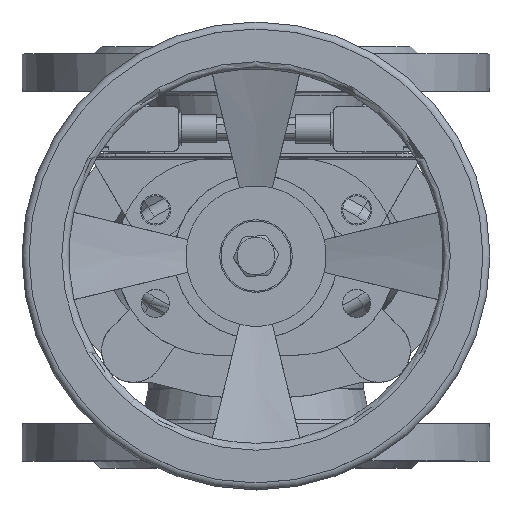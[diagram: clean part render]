
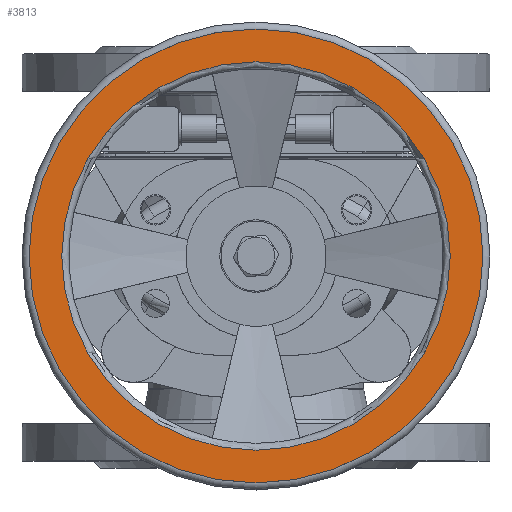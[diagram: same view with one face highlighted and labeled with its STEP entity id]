
A CAD part, top view. The second image highlights one B-rep face of the part: STEP entity #3813.
In plain terms, the highlighted planar face has unit normal (0, 0, 1).
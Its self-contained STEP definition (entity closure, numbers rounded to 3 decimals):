
#3813=ADVANCED_FACE('',(#7376,#7378),#7380,.T.);
#7376=FACE_BOUND('',#7377,.T.);
#7377=EDGE_LOOP('',(#9652));
#7378=FACE_BOUND('',#7379,.T.);
#7379=EDGE_LOOP('',(#9653));
#7380=PLANE('',#7381);
#7381=AXIS2_PLACEMENT_3D('',#7382,#7383,#7384);
#7382=CARTESIAN_POINT('',(0.,0.,401.));
#7383=DIRECTION('',(0.,0.,1.));
#7384=DIRECTION('',(0.,-1.,0.));
#9652=ORIENTED_EDGE('',*,*,#10786,.T.);
#9653=ORIENTED_EDGE('',*,*,#10778,.F.);
#10778=EDGE_CURVE('',#12506,#12506,#12507,.T.);
#10786=EDGE_CURVE('',#12522,#12522,#12523,.T.);
#12506=VERTEX_POINT('',#18336);
#12507=CIRCLE('',#18337,83.);
#12522=VERTEX_POINT('',#18370);
#12523=CIRCLE('',#18371,97.);
#18336=CARTESIAN_POINT('',(0.,-83.,401.));
#18337=AXIS2_PLACEMENT_3D('',#18338,#18339,#18340);
#18338=CARTESIAN_POINT('',(0.,0.,401.));
#18339=DIRECTION('',(0.,0.,1.));
#18340=DIRECTION('',(0.,-1.,0.));
#18370=CARTESIAN_POINT('',(0.,-97.,401.));
#18371=AXIS2_PLACEMENT_3D('',#18372,#18373,#18374);
#18372=CARTESIAN_POINT('',(0.,0.,401.));
#18373=DIRECTION('',(0.,0.,1.));
#18374=DIRECTION('',(0.,-1.,0.));
